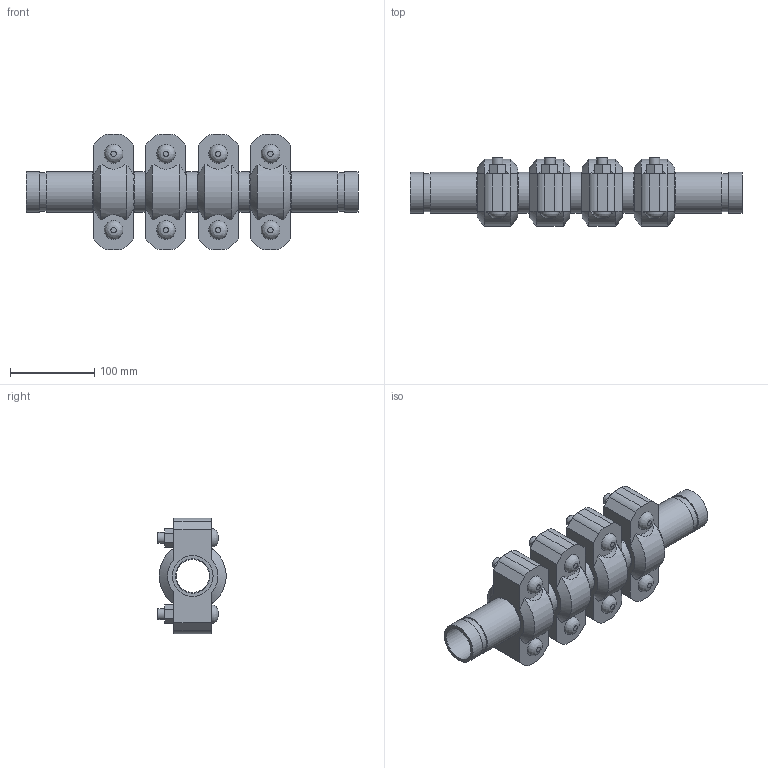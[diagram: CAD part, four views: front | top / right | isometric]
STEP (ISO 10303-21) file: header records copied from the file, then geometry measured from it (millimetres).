
FILE_DESCRIPTION(/* description */ ('VIC EXPANSION JOINT 4 COUPLINGS EXPANDED STYLE 155 (OGS)','CAx-IF Rec.Pracs.---Representation and Presentation of Product Manufacturing Information (PMI)---4.0---2014-10-13'),/* implementation_level */ '2;1');
FILE_NAME(/* name */ 'C:\Users\kkamble\AppData\Roaming\Autodesk\ApplicationPlugins\Victaulic.Temp\A310\Victaulic_IPS_Expansion Joint_Expanded_4 Couplings_Style 155 (OGS)_1.5 (40).stp',/* time_stamp */ '2021-06-27T00:00:08+02:00',/* author */ ('kkamble'),/* organization */ ('Victaulic'),/* preprocessor_version */ 'ST-DEVELOPER v17.2',/* originating_system */ 'Autodesk Inventor 2019',/* authorisation */ '');
FILE_SCHEMA (('AP242_MANAGED_MODEL_BASED_3D_ENGINEERING_MIM_LF { 1 0 10303 442 1 1 4 }'));
Length unit declared in the file: inch
Products named in the file (4): 155-01.5; Nipple-01.5; Nipple-01.5_1; 077-01.5
Assembly tree (9 placements, depth 2):
  155-01.5
    Nipple-01.5  x2
    Nipple-01.5_1  x3
    077-01.5  x4
Bounding box: 393.45 x 81.03 x 136.65 mm (x, y, z)
Volume: 1237835.3 mm3; surface area: 301060.2 mm2
Topology: 9 solids, 17 shells, 304 faces, 730 edges, 512 vertices
Faces by surface type: plane 174, cylinder 106, cone 16, bspline 8
Full cylindrical faces by diameter (mm): 12.7 x16, 14.605 x8, 39.37 x4, 40.894 x5, 45.085 x10, 48.26 x23
Entity records: 3001 total; most frequent: CARTESIAN_POINT 601, DIRECTION 481, ORIENTED_EDGE 410, EDGE_CURVE 205, AXIS2_PLACEMENT_3D 192, VERTEX_POINT 146, EDGE_LOOP 111, LINE 97
